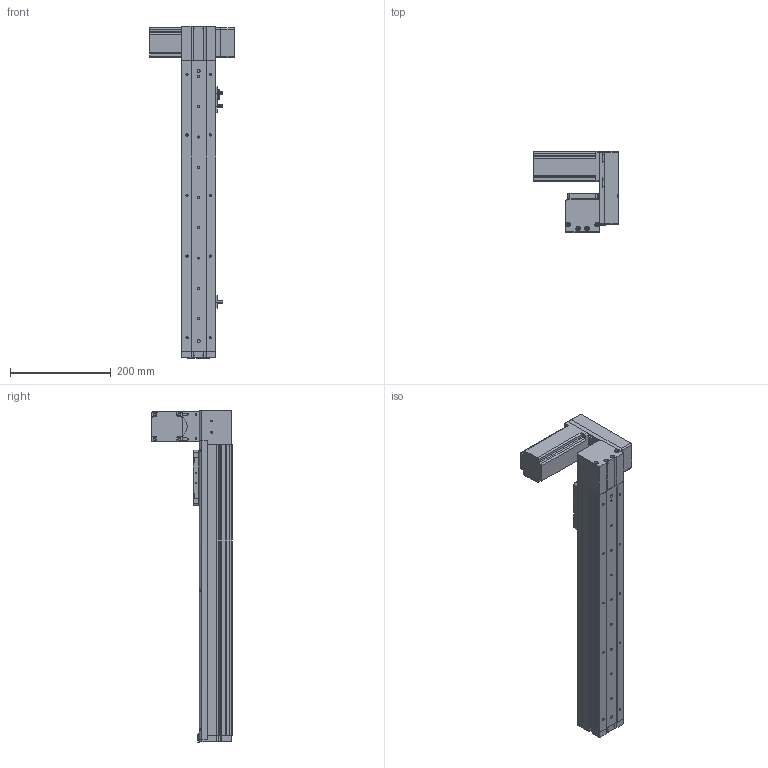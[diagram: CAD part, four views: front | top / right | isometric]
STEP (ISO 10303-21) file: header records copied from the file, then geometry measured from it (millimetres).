
FILE_DESCRIPTION (( 'STEP AP214' ), '1' );
FILE_NAME ('KSD68BS-S400-MLU-CR.STEP', '2019-08-27T08:01:28', ( '微软用户' ), ( '微软中国' ), 'SwSTEP 2.0', 'SolidWorks 2014', '' );
FILE_SCHEMA (( 'AUTOMOTIVE_DESIGN' ));
Length unit declared in the file: millimetre
Products named in the file (14): U倰嫖萇EEㄜSX672; 台达ECMA－C20604AS伺服电机（400W); KSD68BS 400行程底板全封闭; KSD68BS-S400-MLU-CR; 68遵裔啣揤啣1; 68宽单导轨全封闭丝杆传动安装板1防护罩; KSD68BS 400行程侧板全封闭; 68宽单导轨全封闭同步带端板; 68单导轨全封闭同步带电机座左; KSD68BS 400行程盖板全封闭; 68单导轨全封闭同步带安装板; 悵誘欶奻狟殏; 68宽马达安装板连板上折同步带; 感应片68宽全封闭
Assembly tree (16 placements, depth 2):
  KSD68BS-S400-MLU-CR
    KSD68BS 400行程底板全封闭
    台达ECMA－C20604AS伺服电机（400W)
    U倰嫖萇EEㄜSX672  x3
    感应片68宽全封闭
    68宽马达安装板连板上折同步带
    悵誘欶奻狟殏
    68单导轨全封闭同步带安装板
    68单导轨全封闭同步带电机座左
    68宽单导轨全封闭同步带端板
    KSD68BS 400行程侧板全封闭  x2
    68宽单导轨全封闭丝杆传动安装板1防护罩
    KSD68BS 400行程盖板全封闭
    68遵裔啣揤啣1
Bounding box: 167.2 x 159.5 x 658.1 mm (x, y, z)
Volume: 1726797.2 mm3; surface area: 588328.7 mm2
Topology: 17 solids, 17 shells, 1356 faces, 3820 edges, 2460 vertices
Faces by surface type: cylinder 614, plane 614, cone 128
Entity records: 42487 total; most frequent: CARTESIAN_POINT 7150, DIRECTION 6428, ORIENTED_EDGE 6162, EDGE_CURVE 3081, AXIS2_PLACEMENT_3D 2286, VERTEX_POINT 2022, VECTOR 1856, LINE 1856
